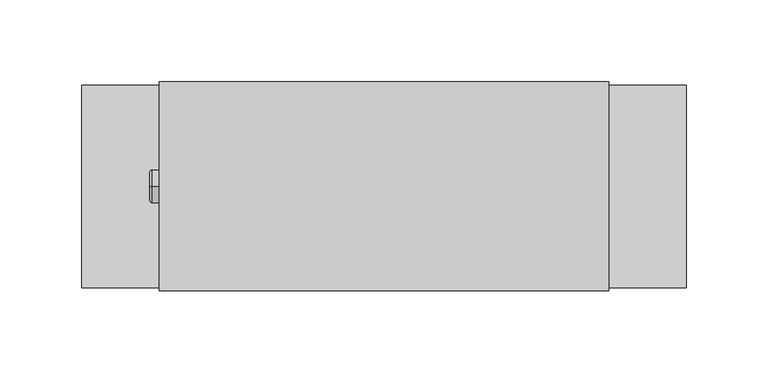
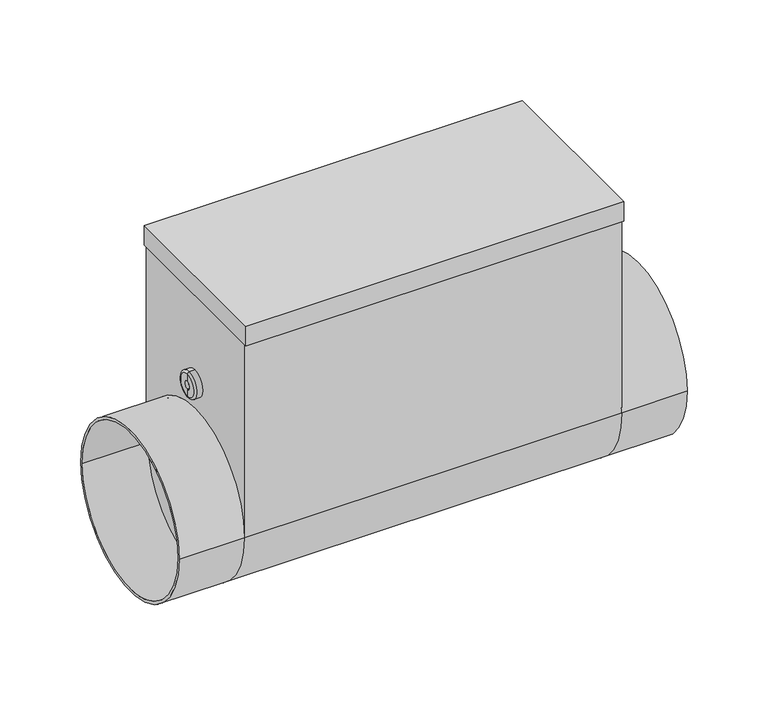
"""IFC4 building model written with IfcOpenShell, lengths in millimetres: proxy geometry, СВ_ВоздухонагревательЭлектрический_КанальныйКруглый_DN100-315_SKH-E : SKH-E-125/2."""

import ifcopenshell
import ifcopenshell.guid

model = None  # the IFC model being written
_history = None  # IfcOwnerHistory: only IFC2X3 demands one
_inside = {}  # id of a spatial element -> (the spatial element, [elements in it])
_under = {}  # id of a project, library or spatial element -> (it, [spatial elements below it])
_declared = {}  # id of a project -> (the project, [libraries it declares])
_typed = {}  # id of a type object -> (the type object, [elements of that type])
_made_of = {}  # id of a material, layer set ... -> (it, [elements and type objects made of it])


def new_model(schema):
    """Start an empty IFC model of exactly this schema.

    Asked for "IFC4X3", IfcOpenShell would pick the latest addendum, in which some entities
    have other attributes; the version numbers below select the first issue.
    IFC2X3 requires an IfcOwnerHistory on every rooted entity: one is made here for all.
    """
    global model, _history
    if schema == "IFC4X3":
        model = ifcopenshell.file(schema_version=(4, 3, 0, 0))
    else:
        model = ifcopenshell.file(schema=schema)
    _inside.clear()
    _under.clear()
    _declared.clear()
    _typed.clear()
    _made_of.clear()
    _history = None
    if model.schema == "IFC2X3":
        org = make("IfcOrganization", Name="unknown")
        user = make(
            "IfcPersonAndOrganization",
            ThePerson=make("IfcPerson", FamilyName="unknown"),
            TheOrganization=org,
        )
        app = make(
            "IfcApplication",
            ApplicationDeveloper=org,
            Version="unknown",
            ApplicationFullName="unknown",
            ApplicationIdentifier="unknown",
        )
        _history = make(
            "IfcOwnerHistory",
            OwningUser=user,
            OwningApplication=app,
            ChangeAction="ADDED",
            CreationDate=0,
        )
    return model


def make(cls, **values):
    """One entity of the class cls with the attributes given. An attribute that is None is left unset."""
    return model.create_entity(
        cls, **{name: value for name, value in values.items() if value is not None}
    )


def rooted(cls, **values):
    """An entity with a GlobalId (a new one), such as an element, a storey or a relation."""
    return make(cls, GlobalId=ifcopenshell.guid.new(), OwnerHistory=_history, **values)


def si_unit(unit_type, name, prefix=None):
    """IfcSIUnit, for example si_unit("LENGTHUNIT", "METRE", prefix="MILLI")."""
    return make("IfcSIUnit", UnitType=unit_type, Prefix=prefix, Name=name)


def assignment(units):
    """IfcUnitAssignment: the units of a project."""
    return None if units is None else make("IfcUnitAssignment", Units=units)


def point(xyz):
    """IfcCartesianPoint."""
    return None if xyz is None else make("IfcCartesianPoint", Coordinates=xyz)


def direction(xyz):
    """IfcDirection."""
    return None if xyz is None else make("IfcDirection", DirectionRatios=xyz)


def frame(location, z_axis=None, x_axis=None):
    """IfcAxis2Placement3D, a coordinate frame: its origin and axes. An axis left out is left unset."""
    return make(
        "IfcAxis2Placement3D",
        Location=point(location),
        Axis=direction(z_axis),
        RefDirection=direction(x_axis),
    )


def origin():
    """The frame at (0, 0, 0) with its axes left unset."""
    return frame((0.0, 0.0, 0.0))


def place(relative_to, where):
    """IfcLocalPlacement: puts the frame where relative to a parent placement (None: the world)."""
    return make(
        "IfcLocalPlacement", PlacementRelTo=relative_to, RelativePlacement=where
    )


def context(
    kind, dimensions, precision=None, world=None, true_north=None, identifier=None
):
    """IfcGeometricRepresentationContext, for example the 3D "Model" context."""
    return make(
        "IfcGeometricRepresentationContext",
        ContextIdentifier=identifier,
        ContextType=kind,
        CoordinateSpaceDimension=dimensions,
        Precision=precision,
        WorldCoordinateSystem=world,
        TrueNorth=true_north,
    )


def project(units=None, contexts=None):
    """IfcProject with its units and contexts."""
    return rooted(
        "IfcProject",
        Name="project",
        RepresentationContexts=contexts,
        UnitsInContext=assignment(units),
    )


def spatial(cls, under=None, at=None, **own):
    """A site, building, storey or space (cls), placed at a placement, below another one or the project."""
    s = rooted(cls, ObjectPlacement=at, **own)
    if under is not None:
        _under.setdefault(under.id(), (under, []))[1].append(s)
    return s


def polyline(points):
    """IfcPolyline through the points."""
    return make("IfcPolyline", Points=[point(p) for p in points])


def circle_curve(where, radius):
    """IfcCircle in the frame where."""
    return make("IfcCircle", Position=where, Radius=radius)


def ellipse_curve(where, semi_axis1, semi_axis2):
    """IfcEllipse in the frame where."""
    return make(
        "IfcEllipse", Position=where, SemiAxis1=semi_axis1, SemiAxis2=semi_axis2
    )


def trimmed(basis, trim1, trim2, sense, master):
    """IfcTrimmedCurve: the piece of a basis curve between two trims."""
    return make(
        "IfcTrimmedCurve",
        BasisCurve=basis,
        Trim1=trim1,
        Trim2=trim2,
        SenseAgreement=sense,
        MasterRepresentation=master,
    )


def outline(outer, holes=None, kind="AREA"):
    """IfcArbitraryClosedProfileDef: a profile drawn as a closed curve; with holes, ...WithVoids."""
    if holes is None:
        return make("IfcArbitraryClosedProfileDef", ProfileType=kind, OuterCurve=outer)
    return make(
        "IfcArbitraryProfileDefWithVoids",
        ProfileType=kind,
        OuterCurve=outer,
        InnerCurves=holes,
    )


def extrude(swept, where, along, depth):
    """IfcExtrudedAreaSolid: the profile swept, set in the frame where, extruded along a direction by depth."""
    return make(
        "IfcExtrudedAreaSolid",
        SweptArea=swept,
        Position=where,
        ExtrudedDirection=direction(along),
        Depth=depth,
    )


def shape(context_of_items, identifier, shape_type, items):
    """IfcShapeRepresentation: the items that make up one representation, for example the "Body"."""
    return make(
        "IfcShapeRepresentation",
        ContextOfItems=context_of_items,
        RepresentationIdentifier=identifier,
        RepresentationType=shape_type,
        Items=items,
    )


def source(mapping_origin, context_of_items, identifier, shape_type, items):
    """IfcRepresentationMap: a shape defined once, which mapped items show again and again."""
    return make(
        "IfcRepresentationMap",
        MappingOrigin=mapping_origin,
        MappedRepresentation=shape(context_of_items, identifier, shape_type, items),
    )


def transform(
    local_origin,
    x_axis=None,
    y_axis=None,
    z_axis=None,
    scale=None,
    scale2=None,
    scale3=None,
    uniform=True,
):
    """IfcCartesianTransformationOperator3D, or its non-uniform kind. x_axis, y_axis, z_axis: its Axis1, 2, 3."""
    if uniform:
        return make(
            "IfcCartesianTransformationOperator3D",
            Axis1=direction(x_axis),
            Axis2=direction(y_axis),
            LocalOrigin=point(local_origin),
            Scale=scale,
            Axis3=direction(z_axis),
        )
    return make(
        "IfcCartesianTransformationOperator3DnonUniform",
        Axis1=direction(x_axis),
        Axis2=direction(y_axis),
        LocalOrigin=point(local_origin),
        Scale=scale,
        Axis3=direction(z_axis),
        Scale2=scale2,
        Scale3=scale3,
    )


def mapped(mapping_source, mapping_target):
    """IfcMappedItem: shows the shape of a source again, moved by a transform."""
    return make(
        "IfcMappedItem", MappingSource=mapping_source, MappingTarget=mapping_target
    )


def made_of(thing, what):
    """Note that an element or type object is made of a material, layer set ...; save() writes the relation."""
    if what is not None:
        _made_of.setdefault(what.id(), (what, []))[1].append(thing)
    return thing


def element(
    cls,
    number,
    at=None,
    inside=None,
    cuts=None,
    type_object=None,
    material=None,
    context=None,
    identifier="Body",
    shape_type=None,
    held_by="IfcProductDefinitionShape",
    body=None,
    shapes=None,
    **own,
):
    """One element of the class cls, such as IfcWall. Its Tag is "e" and its number.

    at: its placement. inside: the storey or other place that contains it. cuts: it is an
    opening in that element (IfcRelVoidsElement). A single representation is given by context,
    identifier, shape_type and body (its items); several are given by shapes. held_by: the class
    of the entity that holds the representations. save() writes the other relations.
    """
    e = rooted(cls, Tag="e%d" % number, ObjectPlacement=at, **own)
    if body is not None:
        shapes = [shape(context, identifier, shape_type, body)]
    if shapes is not None:
        e.Representation = make(held_by, Representations=shapes)
    if inside is not None:
        _inside.setdefault(inside.id(), (inside, []))[1].append(e)
    if cuts is not None:
        rooted(
            "IfcRelVoidsElement", RelatingBuildingElement=cuts, RelatedOpeningElement=e
        )
    if type_object is not None:
        _typed.setdefault(type_object.id(), (type_object, []))[1].append(e)
    return made_of(e, material)


def aggregate(whole, parts):
    """IfcRelAggregates: a whole, such as a stair, and the parts it consists of."""
    return rooted("IfcRelAggregates", RelatingObject=whole, RelatedObjects=parts)


def save(model, path):
    """Write the relations noted so far, then the file.

    IfcRelAggregates (storeys below a building ...), IfcRelContainedInSpatialStructure (elements
    in a storey), IfcRelDefinesByType, IfcRelAssociatesMaterial and IfcRelDeclares: one each for
    every whole, place, type object, material and project.
    """
    for whole, parts in _under.values():
        aggregate(whole, parts)
    for where, things in _inside.values():
        rooted(
            "IfcRelContainedInSpatialStructure",
            RelatedElements=things,
            RelatingStructure=where,
        )
    for kind, things in _typed.values():
        rooted("IfcRelDefinesByType", RelatedObjects=things, RelatingType=kind)
    for what, things in _made_of.values():
        rooted("IfcRelAssociatesMaterial", RelatedObjects=things, RelatingMaterial=what)
    for by, libraries in _declared.values():
        rooted("IfcRelDeclares", RelatingContext=by, RelatedDefinitions=libraries)
    model.write(path)


def plane_surface(at):
    """IfcPlane: the flat surface through the origin of the frame at, square to its z axis."""
    return make("IfcPlane", Position=at)


def cylinder_surface(at, radius):
    """IfcCylindricalSurface: all points at the distance radius from the z axis of the frame at."""
    return make("IfcCylindricalSurface", Position=at, Radius=radius)


def revolved_surface(curve, axis_point, axis_direction):
    """IfcSurfaceOfRevolution: the curve turned about the line through axis_point along axis_direction."""
    return make(
        "IfcSurfaceOfRevolution",
        SweptCurve=make("IfcArbitraryOpenProfileDef", ProfileType="CURVE", Curve=curve),
        AxisPosition=make("IfcAxis1Placement", Location=point(axis_point), Axis=direction(axis_direction)),
    )


def advanced_brep(points, edges, surfaces, faces):
    """IfcAdvancedBrep: a solid bounded by faces that lie on surfaces and meet in shared edges.

    An edge is (start, end): straight between two places in points (the first is 0);
    or (start, end, curve); or (start, end, curve, False) where it runs against its curve.
    A face is (place in surfaces, loops), or (place, loops, False) where it looks against
    its surface's normal. A loop lists edges by number (the first is 1), with a minus sign
    where the edge is run from its end to its start. The first loop is the outer one.
    """
    corners = [point(p) for p in points]
    vertices = [make("IfcVertexPoint", VertexGeometry=c) for c in corners]
    made = []
    for start, end, *more in edges:
        made.append(
            make(
                "IfcEdgeCurve",
                EdgeStart=vertices[start],
                EdgeEnd=vertices[end],
                EdgeGeometry=more[0] if more else make("IfcPolyline", Points=[corners[start], corners[end]]),
                SameSense=more[1] if len(more) > 1 else True,
            )
        )
    hull = []
    for where, loops, *sense in faces:
        bounds = []
        for j, loop in enumerate(loops):
            ring = [make("IfcOrientedEdge", EdgeElement=made[abs(k) - 1], Orientation=k > 0) for k in loop]
            bounds.append(
                make(
                    "IfcFaceOuterBound" if j == 0 else "IfcFaceBound",
                    Bound=make("IfcEdgeLoop", EdgeList=ring),
                    Orientation=True,
                )
            )
        hull.append(make("IfcAdvancedFace", Bounds=bounds, FaceSurface=surfaces[where], SameSense=sense[0] if sense else True))
    return make("IfcAdvancedBrep", Outer=make("IfcClosedShell", CfsFaces=hull))


def mechanical_equipment_8e176f75(model_context):
    return source(origin(), model_context, "Body", "SolidModel", [
        extrude(outline(polyline([(137.5, -64.0), (-137.5, -64.0), (-137.5, 64.0), (137.5, 64.0), (137.5, -64.0)])), frame((0.0, 0.0, 149.0), z_axis=(0.0, 0.0, 1.0), x_axis=(1.0, 0.0, 0.0)), (0.0, 0.0, 1.0), 15.0),
        advanced_brep(
        [(-185.0, -62.0, 0.0), (-185.0, 62.0, 0.0), (-185.0, -60.0, 0.0), (-185.0, 60.0, 0.0), (-137.5, 60.0, 0.0), (-137.5, -60.0, 0.0), (-137.5, 62.0, 0.0), (-137.5, -62.0, 0.0), (137.5, -60.0, 0.0), (137.5, 60.0, 0.0), (137.5, -62.0, 149.0), (137.5, -62.0, 0.0), (137.5, 62.0, 0.0), (137.5, 62.0, 149.0), (-137.5, -62.0, 149.0), (-137.5, 62.0, 149.0), (185.0, -62.0, 0.0), (185.0, 62.0, 0.0), (185.0, -60.0, 0.0), (185.0, 60.0, 0.0)],
        [
            (0, 1, circle_curve(frame((-185.0, 0.0, 0.0), z_axis=(-1.0, 0.0, 0.0), x_axis=(0.0, 1.0, 0.0)), 62.0)),
            (1, 0, circle_curve(frame((-185.0, 0.0, 0.0), z_axis=(-1.0, 0.0, 0.0), x_axis=(0.0, 1.0, 0.0)), 62.0)),
            (2, 3, circle_curve(frame((-185.0, 0.0, 0.0), z_axis=(1.0, 0.0, 0.0), x_axis=(0.0, 1.0, 0.0)), 60.0)),
            (3, 2, circle_curve(frame((-185.0, 0.0, 0.0), z_axis=(1.0, 0.0, 0.0), x_axis=(0.0, 1.0, 0.0)), 60.0)),
            (3, 4),
            (4, 5, circle_curve(frame((-137.5, 0.0, 0.0), z_axis=(1.0, 0.0, 0.0), x_axis=(0.0, 1.0, 0.0)), 60.0)),
            (5, 2),
            (5, 4, circle_curve(frame((-137.5, 0.0, 0.0), z_axis=(1.0, 0.0, 0.0), x_axis=(0.0, 1.0, 0.0)), 60.0)),
            (1, 6),
            (6, 7, circle_curve(frame((-137.5, 0.0, 0.0), z_axis=(-1.0, 0.0, 0.0), x_axis=(0.0, 1.0, 0.0)), 62.0)),
            (7, 0),
            (7, 6, circle_curve(frame((-137.5, 0.0, 0.0), z_axis=(-1.0, 0.0, 0.0), x_axis=(0.0, 1.0, 0.0)), 62.0)),
            (8, 9, circle_curve(frame((137.5, 0.0, 0.0), z_axis=(1.0, 0.0, 0.0), x_axis=(0.0, 1.0, 0.0)), 60.0)),
            (9, 8, circle_curve(frame((137.5, 0.0, 0.0), z_axis=(1.0, 0.0, 0.0), x_axis=(0.0, 1.0, 0.0)), 60.0)),
            (10, 11),
            (11, 12, circle_curve(frame((137.5, 0.0, 0.0), z_axis=(-1.0, 0.0, 0.0), x_axis=(0.0, 1.0, 0.0)), 62.0)),
            (12, 13),
            (13, 10),
            (7, 14),
            (14, 15),
            (15, 6),
            (6, 12),
            (12, 11, circle_curve(frame((137.5, 0.0, 0.0), z_axis=(-1.0, 0.0, 0.0), x_axis=(0.0, 1.0, 0.0)), 62.0)),
            (11, 7),
            (16, 17, circle_curve(frame((185.0, 0.0, 0.0), z_axis=(1.0, 0.0, 0.0), x_axis=(0.0, 1.0, 0.0)), 62.0)),
            (17, 16, circle_curve(frame((185.0, 0.0, 0.0), z_axis=(1.0, 0.0, 0.0), x_axis=(0.0, 1.0, 0.0)), 62.0)),
            (18, 19, circle_curve(frame((185.0, 0.0, 0.0), z_axis=(-1.0, 0.0, 0.0), x_axis=(0.0, 1.0, 0.0)), 60.0)),
            (19, 18, circle_curve(frame((185.0, 0.0, 0.0), z_axis=(-1.0, 0.0, 0.0), x_axis=(0.0, 1.0, 0.0)), 60.0)),
            (18, 8),
            (9, 19),
            (16, 11),
            (12, 17),
            (10, 14),
            (15, 13),
        ],
        [
            plane_surface(frame((-185.0, 60.0, 0.0), z_axis=(-1.0, 0.0, 0.0), x_axis=(0.0, 0.0, 1.0))),
            revolved_surface(polyline([(-185.0, 60.0, 0.0), (-137.5, 60.0, 0.0)]), (-185.0, 0.0, 0.0), (-1.0, 0.0, 0.0)),
            cylinder_surface(frame((0.0, 0.0, 0.0), z_axis=(1.0, 0.0, 0.0), x_axis=(0.0, 1.0, 0.0)), 62.0),
            plane_surface(frame((137.5, 62.0, 0.0), z_axis=(1.0, 0.0, 0.0), x_axis=(0.0, -1.0, 0.0))),
            plane_surface(frame((-137.5, 62.0, 0.0), z_axis=(-1.0, 0.0, 0.0), x_axis=(0.0, 1.0, 0.0))),
            cylinder_surface(frame((-137.5, 0.0, 0.0), z_axis=(1.0, 0.0, 0.0), x_axis=(0.0, 1.0, 0.0)), 62.0),
            plane_surface(frame((185.0, 60.0, 0.0), z_axis=(1.0, 0.0, 0.0), x_axis=(0.0, 0.0, -1.0))),
            revolved_surface(polyline([(137.5, 60.0, 0.0), (185.0, 60.0, 0.0)]), (137.5, 0.0, 0.0), (-1.0, 0.0, 0.0)),
            plane_surface(frame((-137.5, -62.0, 149.0), z_axis=(0.0, -1.0, 0.0), x_axis=(-1.0, 0.0, 0.0))),
            plane_surface(frame((-137.5, 62.0, 149.0), z_axis=(0.0, 1.0, 0.0), x_axis=(1.0, 0.0, 0.0))),
            plane_surface(frame((137.5, -62.0, 149.0), z_axis=(0.0, 0.0, 1.0), x_axis=(0.0, 1.0, 0.0))),
        ],
        [
            (0, [[1, 2], [3, 4]]),
            (1, [[-4, 5, 6, 7]]),
            (1, [[-3, -7, 8, -5]]),
            (2, [[-2, 9, 10, 11]]),
            (2, [[-1, -11, 12, -9]]),
            (3, [[13, 14]]),
            (3, [[15, 16, 17, 18]]),
            (4, [[-8, -6]]),
            (4, [[19, 20, 21, -12]]),
            (5, [[-10, 22, 23, 24]]),
            (6, [[25, 26], [27, 28]]),
            (7, [[-27, 29, -14, 30]]),
            (7, [[-28, -30, -13, -29]]),
            (2, [[-25, 31, -23, 32]]),
            (2, [[-26, -32, -16, -31]]),
            (8, [[33, -19, -24, -15]]),
            (9, [[-17, -22, -21, 34]]),
            (10, [[-33, -18, -34, -20]]),
        ],
    ),
        advanced_brep(
        [(-141.7840134, 0.0, 72.0), (-141.7840134, 0.0, 92.0), (-137.5, 0.0, 92.0), (-137.5, 0.0, 72.0), (-143.2459771, 0.0, 73.4619637), (-143.2459771, 0.0, 90.5380363), (-143.2459771, 0.0, 78.8948071), (-143.2459771, 0.0, 85.1051929), (-140.9138357, 0.0, 78.8948071), (-140.9138357, 0.0, 85.1051929), (-140.9138357, 0.0, 82.0), (-137.5, 0.0, 82.0)],
        [
            (0, 1, circle_curve(frame((-141.7840134, 0.0, 82.0), z_axis=(1.0, 0.0, 0.0), x_axis=(0.0, 0.0, 1.0)), 10.0)),
            (1, 2),
            (2, 3, circle_curve(frame((-137.5, 0.0, 82.0), z_axis=(-1.0, 0.0, 0.0), x_axis=(0.0, 0.0, 1.0)), 10.0)),
            (3, 0),
            (1, 0, circle_curve(frame((-141.7840134, 0.0, 82.0), z_axis=(1.0, 0.0, 0.0), x_axis=(0.0, 0.0, 1.0)), 10.0)),
            (3, 2, circle_curve(frame((-137.5, 0.0, 82.0), z_axis=(-1.0, 0.0, 0.0), x_axis=(0.0, 0.0, 1.0)), 10.0)),
            (4, 5, circle_curve(frame((-143.2459771, 0.0, 82.0), z_axis=(1.0, 0.0, 0.0), x_axis=(0.0, 0.0, 1.0)), 8.5380363)),
            (5, 1, circle_curve(frame((-141.7840134, 0.0, 90.5380363), z_axis=(0.0, 1.0, 0.0), x_axis=(1.0, 0.0, 0.0)), 1.4619637)),
            (0, 4, circle_curve(frame((-141.7840134, 0.0, 73.4619637), z_axis=(0.0, 1.0, 0.0), x_axis=(1.0, 0.0, 0.0)), 1.4619637)),
            (5, 4, circle_curve(frame((-143.2459771, 0.0, 82.0), z_axis=(1.0, 0.0, 0.0), x_axis=(0.0, 0.0, 1.0)), 8.5380363)),
            (6, 7, circle_curve(frame((-143.2459771, 0.0, 82.0), z_axis=(1.0, 0.0, 0.0), x_axis=(0.0, 0.0, 1.0)), 3.1051929)),
            (7, 5),
            (4, 6),
            (7, 6, circle_curve(frame((-143.2459771, 0.0, 82.0), z_axis=(1.0, 0.0, 0.0), x_axis=(0.0, 0.0, 1.0)), 3.1051929)),
            (8, 9, circle_curve(frame((-140.9138357, 0.0, 82.0), z_axis=(1.0, 0.0, 0.0), x_axis=(0.0, 0.0, 1.0)), 3.1051929)),
            (9, 7),
            (6, 8),
            (9, 8, circle_curve(frame((-140.9138357, 0.0, 82.0), z_axis=(1.0, 0.0, 0.0), x_axis=(0.0, 0.0, 1.0)), 3.1051929)),
            (10, 9),
            (8, 10),
            (2, 11),
            (11, 3),
        ],
        [
            cylinder_surface(frame((-173.1635229, 0.0, 82.0), z_axis=(-1.0, 0.0, 0.0), x_axis=(0.0, 0.0, 1.0)), 10.0),
            revolved_surface(trimmed(ellipse_curve(frame((-141.7840134, 0.0, 90.5380363), z_axis=(0.0, -1.0, 0.0), x_axis=(1.0, 0.0, 0.0)), 1.4619637, 1.4619637), [point((-141.7840134, 0.0, 92.0))], [point((-143.2459771, 0.0, 90.5380363))], True, "CARTESIAN"), (-173.1635229, 0.0, 82.0), (-1.0, 0.0, 0.0)),
            plane_surface(frame((-143.2459771, 0.0, 82.0), z_axis=(-1.0, 0.0, 0.0), x_axis=(0.0, 0.0, 1.0))),
            revolved_surface(polyline([(-143.2459771, 0.0, 85.1051929), (-140.9138357, 0.0, 85.1051929)]), (-173.1635229, 0.0, 82.0), (-1.0, 0.0, 0.0)),
            plane_surface(frame((-140.9138357, 0.0, 82.0), z_axis=(-1.0, 0.0, 0.0), x_axis=(0.0, 0.0, 1.0))),
            plane_surface(frame((-137.5, 0.0, 82.0), z_axis=(1.0, 0.0, 0.0), x_axis=(0.0, 0.0, 1.0))),
        ],
        [
            (0, [[1, 2, 3, 4]]),
            (0, [[5, -4, 6, -2]]),
            (1, [[7, 8, -1, 9]]),
            (1, [[10, -9, -5, -8]]),
            (2, [[11, 12, -7, 13]]),
            (2, [[14, -13, -10, -12]]),
            (3, [[15, 16, -11, 17]]),
            (3, [[18, -17, -14, -16]]),
            (4, [[19, -15, 20]]),
            (4, [[-20, -18, -19]]),
            (5, [[-3, 21, 22]]),
            (5, [[-6, -22, -21]]),
        ],
    ),
    ])


if __name__ == "__main__":
    model = new_model("IFC4")
    model_context = context("Model", 3, world=origin())
    ifc_project = project(units=[si_unit("LENGTHUNIT", "METRE", prefix="MILLI")], contexts=[model_context])
    site = spatial("IfcSite", under=ifc_project)
    building = spatial("IfcBuilding", under=site)
    placement = place(None, origin())
    mechanical_equipment_shape = mechanical_equipment_8e176f75(model_context)
    element("IfcBuildingElementProxy", 1, Name="СВ_ВоздухонагревательЭлектрический_КанальныйКруглый_DN100-315_SKH-E : SKH-E-125/2", ObjectType="СВ_ВоздухонагревательЭлектрический_КанальныйКруглый_DN100-315_SKH-E : SKH-E-125/2", at=placement, inside=building, context=model_context, shape_type="MappedRepresentation", body=[
        mapped(mechanical_equipment_shape, transform((0.0, 0.0, 0.0), x_axis=(1.0, 0.0, 0.0), y_axis=(0.0, 1.0, 0.0), z_axis=(0.0, 0.0, 1.0))),
    ])
    save(model, "model.ifc")
